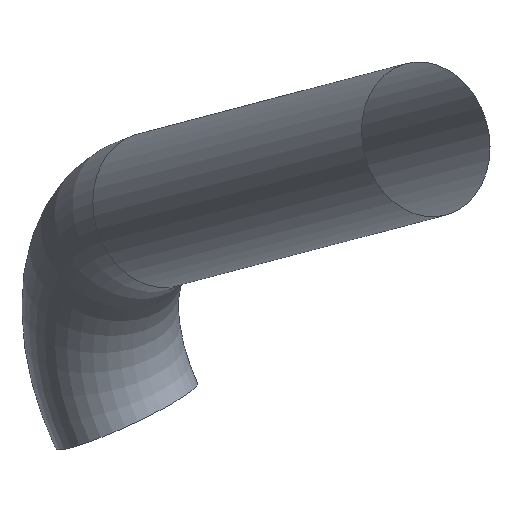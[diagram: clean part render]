
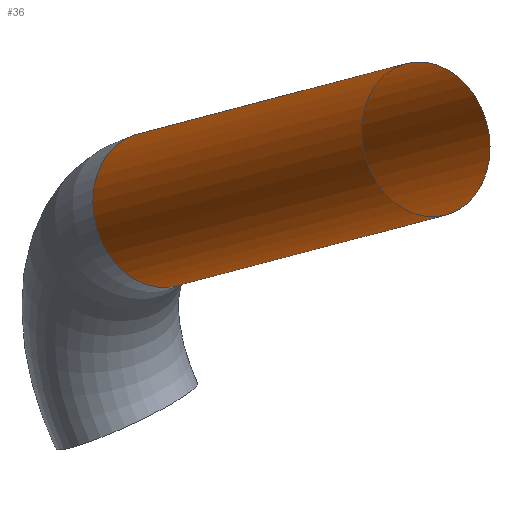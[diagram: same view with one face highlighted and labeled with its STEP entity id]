
A CAD part, isometric view. The second image highlights one B-rep face of the part: STEP entity #36.
In plain terms, the highlighted cylindrical face has radius 0.508 mm (diameter 1.016 mm), a full revolution.
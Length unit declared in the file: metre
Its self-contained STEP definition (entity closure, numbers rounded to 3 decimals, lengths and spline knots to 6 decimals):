
#12=CYLINDRICAL_SURFACE('',#45,0.000508);
#15=ORIENTED_EDGE('',*,*,#19,.T.);
#16=ORIENTED_EDGE('',*,*,#18,.F.);
#18=EDGE_CURVE('NONE',#21,#21,#24,.F.);
#19=EDGE_CURVE('NONE',#22,#22,#25,.F.);
#21=VERTEX_POINT('',#64);
#22=VERTEX_POINT('',#67);
#24=CIRCLE('',#44,0.000508);
#25=CIRCLE('',#46,0.000508);
#28=EDGE_LOOP('',(#15));
#29=EDGE_LOOP('',(#16));
#32=FACE_BOUND('',#28,.T.);
#33=FACE_BOUND('',#29,.T.);
#36=ADVANCED_FACE('NONE',(#32,#33),#12,.T.);
#44=AXIS2_PLACEMENT_3D('',#63,#53,#54);
#45=AXIS2_PLACEMENT_3D('',#65,#55,#56);
#46=AXIS2_PLACEMENT_3D('',#66,#57,#58);
#53=DIRECTION('',(0.,-0.809,0.588));
#54=DIRECTION('',(0.,-0.588,-0.809));
#55=DIRECTION('',(0.,-0.809,0.588));
#56=DIRECTION('',(0.,0.588,0.809));
#57=DIRECTION('',(0.,-0.809,0.588));
#58=DIRECTION('',(0.,-0.588,-0.809));
#63=CARTESIAN_POINT('',(0.024045,-0.062188,0.002846));
#64=CARTESIAN_POINT('',(0.024045,-0.062487,0.002435));
#65=CARTESIAN_POINT('',(0.024045,-0.062188,0.002846));
#66=CARTESIAN_POINT('',(0.024045,-0.064651,0.004638));
#67=CARTESIAN_POINT('',(0.024045,-0.06495,0.004227));
